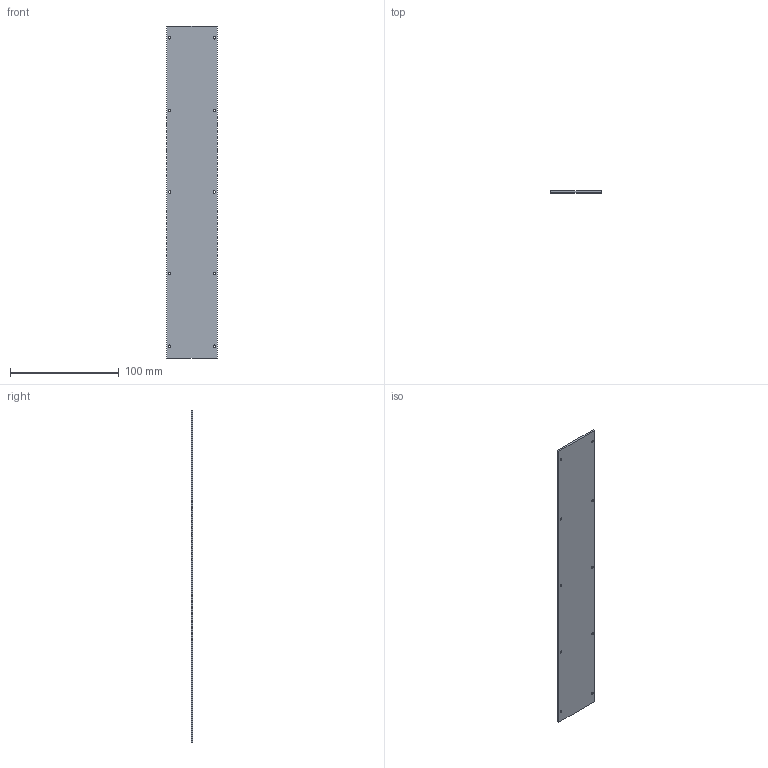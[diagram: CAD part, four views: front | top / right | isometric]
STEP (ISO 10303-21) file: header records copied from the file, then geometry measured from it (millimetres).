
FILE_DESCRIPTION (( 'STEP AP214' ), '1' );
FILE_NAME ('LSN6-00-300-1-X-24V-DIFFUSER LINE.STEP', '2022-05-11T09:28:48', ( '' ), ( '' ), 'SwSTEP 2.0', 'SolidWorks 2021', '' );
FILE_SCHEMA (( 'AUTOMOTIVE_DESIGN' ));
Length unit declared in the file: millimetre
Products named in the file (1): LSN6-00-300-1-X-24V-DIFFUSER LINE
Bounding box: 46.6 x 1.8 x 305.8 mm (x, y, z)
Volume: 25582.1 mm3; surface area: 29817.6 mm2
Topology: 1 solids, 1 shells, 26 faces, 72 edges, 48 vertices
Faces by surface type: cylinder 20, plane 6
Entity records: 930 total; most frequent: DIRECTION 166, CARTESIAN_POINT 147, ORIENTED_EDGE 144, EDGE_CURVE 72, AXIS2_PLACEMENT_3D 67, VERTEX_POINT 48, EDGE_LOOP 46, CIRCLE 40
